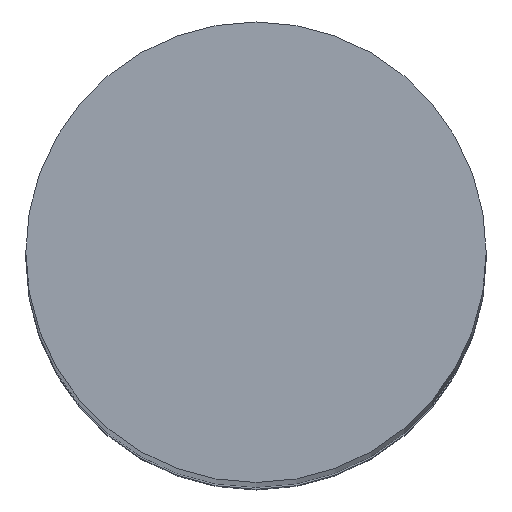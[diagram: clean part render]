
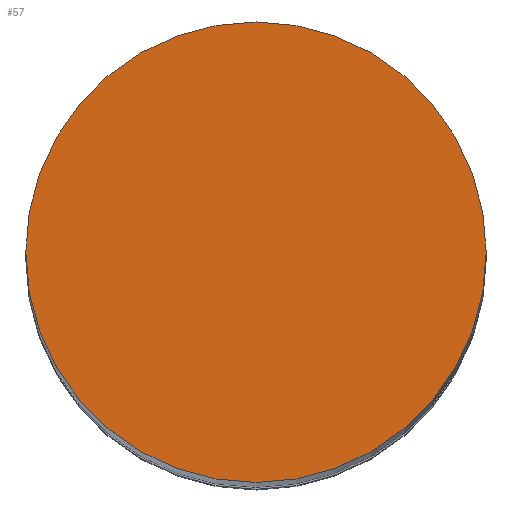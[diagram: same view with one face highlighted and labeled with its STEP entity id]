
A CAD part, top view. The second image highlights one B-rep face of the part: STEP entity #57.
In plain terms, the highlighted planar face has unit normal (0, 0, 1).
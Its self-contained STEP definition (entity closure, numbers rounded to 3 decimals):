
#57=ADVANCED_FACE('',(#110),#111,.T.);
#110=FACE_OUTER_BOUND('',#156,.T.);
#111=PLANE('',#157);
#156=EDGE_LOOP('',(#243,#244));
#157=AXIS2_PLACEMENT_3D('',#245,#246,#247);
#243=ORIENTED_EDGE('',*,*,#288,.T.);
#244=ORIENTED_EDGE('',*,*,#259,.T.);
#245=CARTESIAN_POINT('',(0.0,0.0,0.0));
#246=DIRECTION('',(0.0,0.0,1.0));
#247=DIRECTION('',(1.0,0.0,0.0));
#259=EDGE_CURVE('',#296,#293,#297,.T.);
#288=EDGE_CURVE('',#293,#296,#337,.T.);
#293=VERTEX_POINT('',#342);
#296=VERTEX_POINT('',#346);
#297=CIRCLE('',#347,3.0);
#337=CIRCLE('',#392,3.0);
#342=CARTESIAN_POINT('',(-3.0,0.0,0.0));
#346=CARTESIAN_POINT('',(3.0,0.,0.0));
#347=AXIS2_PLACEMENT_3D('',#397,#398,#399);
#392=AXIS2_PLACEMENT_3D('',#447,#448,#449);
#397=CARTESIAN_POINT('',(0.0,0.0,0.0));
#398=DIRECTION('',(0.0,0.0,1.0));
#399=DIRECTION('',(-1.0,0.0,0.0));
#447=CARTESIAN_POINT('',(0.0,0.0,0.0));
#448=DIRECTION('',(0.0,0.0,1.0));
#449=DIRECTION('',(-1.0,0.0,0.0));
